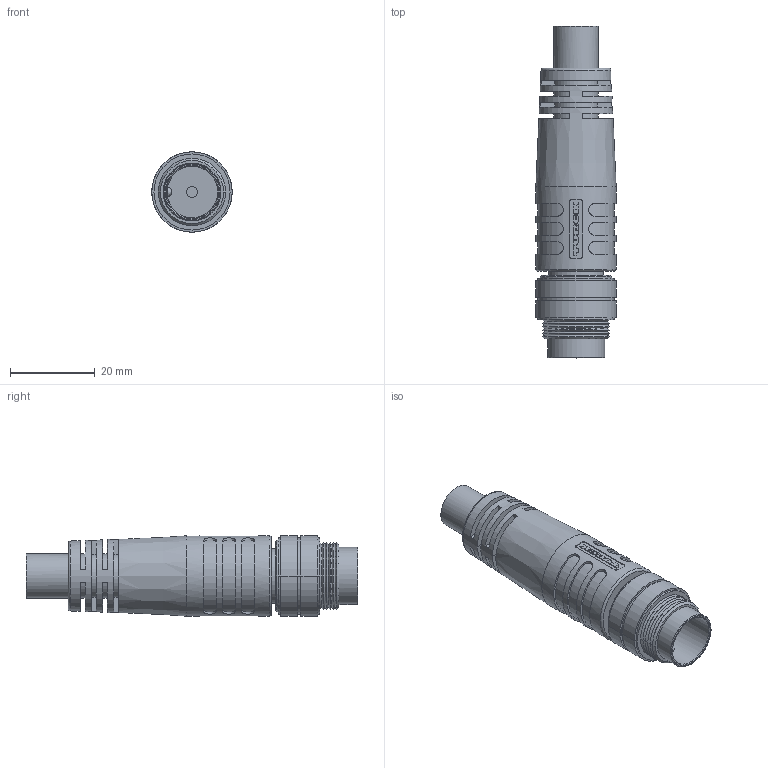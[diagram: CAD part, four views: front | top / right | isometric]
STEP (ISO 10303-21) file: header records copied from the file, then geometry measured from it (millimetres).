
FILE_DESCRIPTION((''),'2;1');
FILE_NAME('C:\TurckZip\MFGD0026.stp','2012-04-20T13:54:33',('IKOROL'),(''),'Autodesk Inventor 2010','Autodesk Inventor 2010','');
FILE_SCHEMA(('AUTOMOTIVE_DESIGN { 1 2 10303 214 0 1 1 1 }'));
Length unit declared in the file: millimetre
Products named in the file (1): Part1
Bounding box: 19 x 78.5 x 19 mm (x, y, z)
Volume: 16022.7 mm3; surface area: 7889.9 mm2
Topology: 1 solids, 2 shells, 441 faces, 1303 edges, 853 vertices
Faces by surface type: plane 254, cylinder 131, bspline 27, cone 25, torus 4
Full cylindrical faces by diameter (mm): 2.6 x1, 10.5 x1, 12.3 x1, 12.9 x1, 13.5 x1, 19 x1
Entity records: 15745 total; most frequent: CARTESIAN_POINT 3643, ORIENTED_EDGE 2552, DIRECTION 2470, EDGE_CURVE 1276, AXIS2_PLACEMENT_3D 877, VERTEX_POINT 843, VECTOR 716, LINE 716
